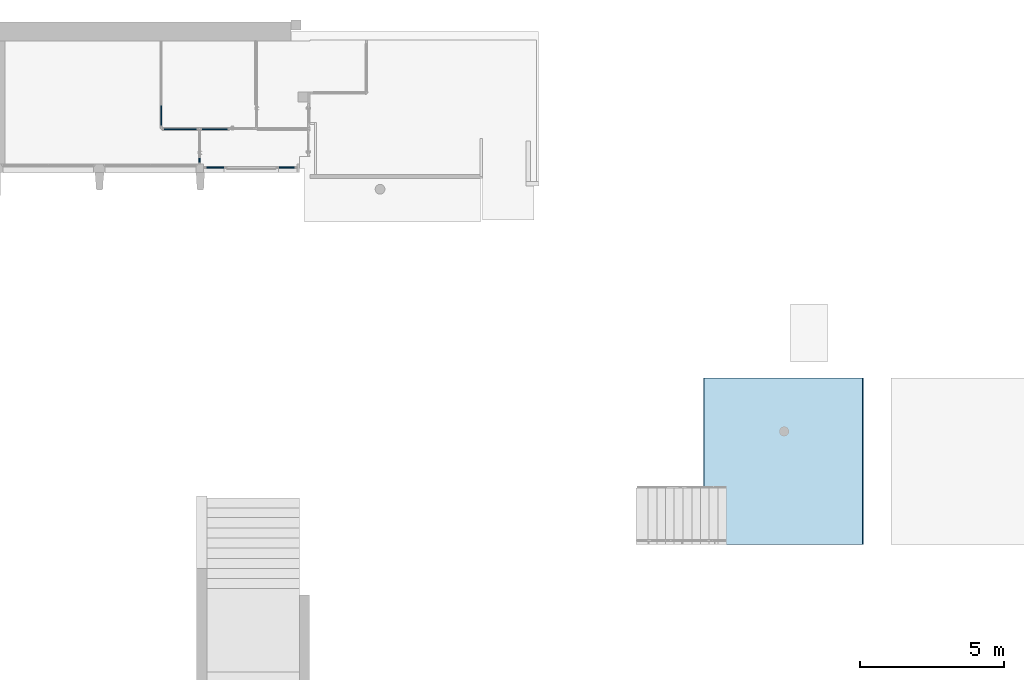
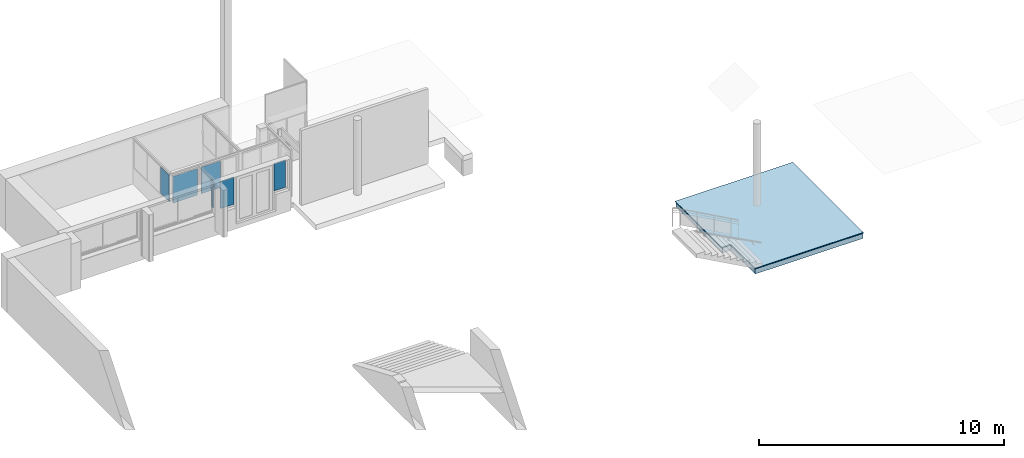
# One storey, part 4 of 19: 6 plates, 2 slabs, 5 elements without a shape of their own.
"""IFC4 building model written with IfcOpenShell, lengths in metres."""

from ifc_helpers import new_model, entity, si_unit, converted_unit, derived_unit, direction, frame, origin, place, context, subcontext, project, spatial, indexed_curve, outline, extrude, shape, source, transform, mapped, material, layer, layer_set, type_object, type_shapes, element, aggregate, save


model = new_model("IFC4")

# Units and contexts
model_context = context("Model", 3, precision=1e-05, world=origin(), true_north=direction((6.12303176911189e-17, 1.0)))
body_context = subcontext(model_context, "Body", "Model", "MODEL_VIEW")
footprint_context = subcontext(model_context, "FootPrint", "Model", "MODEL_VIEW")
ifc_project = project(units=[si_unit("LENGTHUNIT", "METRE"), si_unit("AREAUNIT", "SQUARE_METRE"), si_unit("VOLUMEUNIT", "CUBIC_METRE"), converted_unit("PLANEANGLEUNIT", "DEGREE", entity("IfcRatioMeasure", 0.0174532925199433), si_unit("PLANEANGLEUNIT", "RADIAN"), dimensions=[0, 0, 0, 0, 0, 0, 0]), si_unit("MASSUNIT", "GRAM", prefix="KILO"), derived_unit("MASSDENSITYUNIT", [(si_unit("MASSUNIT", "GRAM", prefix="KILO"), 1), (si_unit("LENGTHUNIT", "METRE"), -3)]), derived_unit("MOMENTOFINERTIAUNIT", [(si_unit("LENGTHUNIT", "METRE"), 4)]), si_unit("TIMEUNIT", "SECOND"), si_unit("FREQUENCYUNIT", "HERTZ"), si_unit("THERMODYNAMICTEMPERATUREUNIT", "DEGREE_CELSIUS"), derived_unit("THERMALTRANSMITTANCEUNIT", [(si_unit("MASSUNIT", "GRAM", prefix="KILO"), 1), (si_unit("THERMODYNAMICTEMPERATUREUNIT", "KELVIN"), -1), (si_unit("TIMEUNIT", "SECOND"), -3)]), derived_unit("VOLUMETRICFLOWRATEUNIT", [(si_unit("LENGTHUNIT", "METRE"), 3), (si_unit("TIMEUNIT", "SECOND"), -1)]), si_unit("ELECTRICCURRENTUNIT", "AMPERE"), si_unit("ELECTRICVOLTAGEUNIT", "VOLT"), si_unit("POWERUNIT", "WATT"), si_unit("FORCEUNIT", "NEWTON", prefix="KILO"), si_unit("ILLUMINANCEUNIT", "LUX"), si_unit("LUMINOUSFLUXUNIT", "LUMEN"), si_unit("LUMINOUSINTENSITYUNIT", "CANDELA"), derived_unit("USERDEFINED", [(si_unit("MASSUNIT", "GRAM", prefix="KILO"), -1), (si_unit("LENGTHUNIT", "METRE"), -2), (si_unit("TIMEUNIT", "SECOND"), 3), (si_unit("LUMINOUSFLUXUNIT", "LUMEN"), 1)]), derived_unit("LINEARVELOCITYUNIT", [(si_unit("LENGTHUNIT", "METRE"), 1), (si_unit("TIMEUNIT", "SECOND"), -1)]), si_unit("PRESSUREUNIT", "PASCAL"), derived_unit("USERDEFINED", [(si_unit("LENGTHUNIT", "METRE"), -2), (si_unit("MASSUNIT", "GRAM", prefix="KILO"), 1), (si_unit("TIMEUNIT", "SECOND"), -2)]), derived_unit("LINEARFORCEUNIT", [(si_unit("MASSUNIT", "GRAM", prefix="KILO"), 1), (si_unit("LENGTHUNIT", "METRE"), 1), (si_unit("TIMEUNIT", "SECOND"), -2), (si_unit("LENGTHUNIT", "METRE"), -1)]), derived_unit("PLANARFORCEUNIT", [(si_unit("MASSUNIT", "GRAM", prefix="KILO"), 1), (si_unit("LENGTHUNIT", "METRE"), 1), (si_unit("TIMEUNIT", "SECOND"), -2), (si_unit("LENGTHUNIT", "METRE"), -2)])], contexts=[model_context])

# Site, building, storey
site_placement = place(None, origin())
site = spatial("IfcSite", under=ifc_project, at=site_placement, Name="Default", CompositionType="ELEMENT")
building_placement = place(site_placement, origin())
building = spatial("IfcBuilding", under=site, at=building_placement, Name="HOTEL CONSULAIRE BOULOGNE SUR MER", CompositionType="ELEMENT")
storey_placement = place(building_placement, frame((0.0, 0.0, -4.01003075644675)))
storey = spatial("IfcBuildingStorey", under=building, at=storey_placement, Name="SS2", CompositionType="ELEMENT", Elevation=-4.01003075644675)

# Curtain wall, plates
curtain_wall_type = type_object("IfcCurtainWallType", Name="Mur-rideau:Simple panneau", PredefinedType="NOTDEFINED")
curtain_wall_1_placement = place(storey_placement, frame((0.0, 0.0, 4.01003075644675)))
curtain_wall_1 = element("IfcCurtainWall", 1, at=curtain_wall_1_placement, inside=storey, type_object=curtain_wall_type, Name="Mur-rideau:Simple panneau", ObjectType="Mur-rideau:Simple panneau", PredefinedType="NOTDEFINED")
ifc_material_1 = material(Name="Verre", Category="Verre")
ifc_layer_1 = layer(ifc_material_1, 0.04, Name="Verre", Category="Verre")
ifc_layer_set_1 = layer_set([ifc_layer_1], Name="Mur-rideau:Simple panneau")
plate_type_1 = type_object("IfcPlateType", Name="Panneau système:Vitré", PredefinedType="CURTAIN_PANEL", material=ifc_layer_set_1)
shared_shape_1 = source(origin(), body_context, "Body", "SweptSolid", [
    extrude(outline(indexed_curve([(-0.02, -0.310217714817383), (0.02, -0.310217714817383), (0.02, 0.310217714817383), (-0.02, 0.310217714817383), (-0.02, -0.310217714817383)], self_intersect=False)), frame((0.310217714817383, 0.02, 0.0), z_axis=(0.0, 0.0, 1.0), x_axis=(0.0, 1.0, 0.0)), (0.0, 0.0, 1.0), 1.35356778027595),
])
shared_shape_2 = source(frame((-0.310217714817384, 0.00500000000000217, 0.0)), footprint_context, "FootPrint", "Curve2D", [
    entity("IfcIndexedPolyCurve", entity("IfcCartesianPointList2D", [[0.404772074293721, 0.00347600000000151], [0.404772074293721, 0.0434760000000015], [-0.215663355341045, 0.0434760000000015], [-0.215663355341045, 0.00347600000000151], [0.404772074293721, 0.00347600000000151]]), None, False),
])
type_shapes(plate_type_1, [shared_shape_1, shared_shape_2])
plate_1_placement = place(curtain_wall_1_placement, frame((-17.0747787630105, -14.8825756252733, -3.12359853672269)))
plate_1 = element("IfcPlate", 2, at=plate_1_placement, type_object=plate_type_1, material=ifc_layer_set_1, Name="Panneau système:Vitré", ObjectType="Panneau système:Vitré", PredefinedType="CURTAIN_PANEL", shapes=[
    shape(body_context, "Body", "MappedRepresentation", [mapped(shared_shape_1, transform((0.0, 0.0, 0.0), scale=1.0))]),
    shape(body_context, "Body", "MappedRepresentation", [mapped(shared_shape_2, transform((0.0, 0.0, 0.0), scale=1.0))]),
])
plate_type_2 = type_object("IfcPlateType", Name="Panneau système:Vitré", PredefinedType="CURTAIN_PANEL", material=ifc_layer_set_1)
shared_shape_3 = source(origin(), body_context, "Body", "SweptSolid", [
    extrude(outline(indexed_curve([(-0.0200000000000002, -0.277785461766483), (0.0199999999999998, -0.277785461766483), (0.0200000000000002, 0.277785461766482), (-0.0199999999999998, 0.277785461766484), (-0.0200000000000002, -0.277785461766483)], self_intersect=False)), frame((0.277785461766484, 0.02, 0.0), z_axis=(0.0, 0.0, 1.0), x_axis=(0.0, 1.0, 0.0)), (0.0, 0.0, 1.0), 1.35356778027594),
])
shared_shape_4 = source(frame((-0.277785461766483, 0.00500000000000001, 0.0)), footprint_context, "FootPrint", "Curve2D", [
    entity("IfcIndexedPolyCurve", entity("IfcCartesianPointList2D", [[0.362454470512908, 0.003476], [0.362454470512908, 0.043476], [-0.193116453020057, 0.043476], [-0.193116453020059, 0.003476], [0.362454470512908, 0.003476]]), None, False),
])
type_shapes(plate_type_2, [shared_shape_3, shared_shape_4])
plate_2_placement = place(curtain_wall_1_placement, frame((-14.5643496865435, -14.8825756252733, -3.12359853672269)))
plate_2 = element("IfcPlate", 3, at=plate_2_placement, type_object=plate_type_2, material=ifc_layer_set_1, Name="Panneau système:Vitré", ObjectType="Panneau système:Vitré", PredefinedType="CURTAIN_PANEL", shapes=[
    shape(body_context, "Body", "MappedRepresentation", [mapped(shared_shape_3, transform((0.0, 0.0, 0.0), scale=1.0))]),
    shape(body_context, "Body", "MappedRepresentation", [mapped(shared_shape_4, transform((0.0, 0.0, 0.0), scale=1.0))]),
])
aggregate(curtain_wall_1, [plate_1, plate_2])

# Curtain wall, plate
curtain_wall_2_placement = place(storey_placement, frame((0.0, 0.0, 4.01003075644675)))
curtain_wall_2 = element("IfcCurtainWall", 4, at=curtain_wall_2_placement, inside=storey, type_object=curtain_wall_type, Name="Mur-rideau:Simple panneau", ObjectType="Mur-rideau:Simple panneau", PredefinedType="NOTDEFINED")
plate_type_3 = type_object("IfcPlateType", Name="Panneau système:Vitré", PredefinedType="CURTAIN_PANEL", material=ifc_layer_set_1)
shared_shape_5 = source(origin(), body_context, "Body", "SweptSolid", [
    extrude(outline(indexed_curve([(-0.02, -0.0860000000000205), (0.02, -0.0860000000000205), (0.02, 0.0860000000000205), (-0.02, 0.0860000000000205), (-0.02, -0.0860000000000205)], self_intersect=False)), frame((0.0860000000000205, 0.02, 0.0), z_axis=(0.0, 0.0, 1.0), x_axis=(0.0, 1.0, 0.0)), (0.0, 0.0, 1.0), 1.32926671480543),
])
shared_shape_6 = source(frame((-0.0860000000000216, 0.00500000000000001, 0.0)), footprint_context, "FootPrint", "Curve2D", [
    entity("IfcIndexedPolyCurve", entity("IfcCartesianPointList2D", [[0.112212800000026, 0.003476], [0.112212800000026, 0.043476], [-0.059787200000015, 0.043476], [-0.059787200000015, 0.003476], [0.112212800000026, 0.003476]]), None, False),
])
type_shapes(plate_type_3, [shared_shape_5, shared_shape_6])
plate_3_placement = place(curtain_wall_2_placement, frame((-17.2874892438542, -14.6875756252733, -3.13576483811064), z_axis=(0.0, 0.0, 1.0), x_axis=(0.0, 1.0, 0.0)))
plate_3 = element("IfcPlate", 5, at=plate_3_placement, type_object=plate_type_3, material=ifc_layer_set_1, Name="Panneau système:Vitré", ObjectType="Panneau système:Vitré", PredefinedType="CURTAIN_PANEL", shapes=[
    shape(body_context, "Body", "MappedRepresentation", [mapped(shared_shape_5, transform((0.0, 0.0, 0.0), scale=1.0))]),
    shape(body_context, "Body", "MappedRepresentation", [mapped(shared_shape_6, transform((0.0, 0.0, 0.0), scale=1.0))]),
])
aggregate(curtain_wall_2, [plate_3])

curtain_wall_3_placement = place(storey_placement, frame((0.0, 0.0, 4.01003075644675)))
curtain_wall_3 = element("IfcCurtainWall", 6, at=curtain_wall_3_placement, inside=storey, type_object=curtain_wall_type, Name="Mur-rideau:Simple panneau", ObjectType="Mur-rideau:Simple panneau", PredefinedType="NOTDEFINED")
plate_type_4 = type_object("IfcPlateType", Name="Panneau système:Vitré", PredefinedType="CURTAIN_PANEL", material=ifc_layer_set_1)
shared_shape_7 = source(origin(), body_context, "Body", "SweptSolid", [
    extrude(outline(indexed_curve([(-0.02, -0.349), (0.02, -0.349), (0.02, 0.349), (-0.02, 0.349), (-0.02, -0.349)], self_intersect=False)), frame((0.349, 0.02, 0.0), z_axis=(0.0, 0.0, 1.0), x_axis=(0.0, 1.0, 0.0)), (0.0, 0.0, 1.0), 1.32926671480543),
])
shared_shape_8 = source(frame((-0.348999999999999, 0.00499999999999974, 0.0)), footprint_context, "FootPrint", "Curve2D", [
    entity("IfcIndexedPolyCurve", entity("IfcCartesianPointList2D", [[0.4553752, 0.00347599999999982], [0.4553752, 0.0434759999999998], [-0.242624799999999, 0.0434759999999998], [-0.242624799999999, 0.00347599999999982], [0.4553752, 0.00347599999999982]]), None, False),
])
type_shapes(plate_type_4, [shared_shape_7, shared_shape_8])
plate_4_placement = place(curtain_wall_3_placement, frame((-18.6187787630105, -13.40532416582, -3.13576483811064), z_axis=(0.0, 0.0, 1.0), x_axis=(0.0, 1.0, 0.0)))
plate_4 = element("IfcPlate", 7, at=plate_4_placement, type_object=plate_type_4, material=ifc_layer_set_1, Name="Panneau système:Vitré", ObjectType="Panneau système:Vitré", PredefinedType="CURTAIN_PANEL", shapes=[
    shape(body_context, "Body", "MappedRepresentation", [mapped(shared_shape_7, transform((0.0, 0.0, 0.0), scale=1.0))]),
    shape(body_context, "Body", "MappedRepresentation", [mapped(shared_shape_8, transform((0.0, 0.0, 0.0), scale=1.0))]),
])
aggregate(curtain_wall_3, [plate_4])

curtain_wall_4_placement = place(storey_placement, frame((0.0, 0.0, 4.01003075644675)))
curtain_wall_4 = element("IfcCurtainWall", 8, at=curtain_wall_4_placement, inside=storey, type_object=curtain_wall_type, Name="Mur-rideau:Simple panneau", ObjectType="Mur-rideau:Simple panneau", PredefinedType="NOTDEFINED")
plate_type_5 = type_object("IfcPlateType", Name="Panneau système:Vitré", PredefinedType="CURTAIN_PANEL", material=ifc_layer_set_1)
shared_shape_9 = source(origin(), body_context, "Body", "SweptSolid", [
    extrude(outline(indexed_curve([(-0.02, -0.578500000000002), (0.02, -0.578500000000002), (0.02, 0.578500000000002), (-0.02, 0.578500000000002), (-0.02, -0.578500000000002)], self_intersect=False)), frame((0.578500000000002, 0.02, 0.0), z_axis=(0.0, 0.0, 1.0), x_axis=(0.0, 1.0, 0.0)), (0.0, 0.0, 1.0), 1.32926671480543),
])
shared_shape_10 = source(frame((-0.578500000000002, 0.00500000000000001, 0.0)), footprint_context, "FootPrint", "Curve2D", [
    entity("IfcIndexedPolyCurve", entity("IfcCartesianPointList2D", [[0.754826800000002, 0.003476], [0.754826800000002, 0.043476], [-0.402173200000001, 0.043476], [-0.402173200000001, 0.003476], [0.754826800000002, 0.003476]]), None, False),
])
type_shapes(plate_type_5, [shared_shape_9, shared_shape_10])
plate_5_placement = place(curtain_wall_4_placement, frame((-17.3967787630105, -13.51932416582, -3.13576483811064), z_axis=(0.0, 0.0, 1.0), x_axis=(-1.0, 0.0, 0.0)))
plate_5 = element("IfcPlate", 9, at=plate_5_placement, type_object=plate_type_5, material=ifc_layer_set_1, Name="Panneau système:Vitré", ObjectType="Panneau système:Vitré", PredefinedType="CURTAIN_PANEL", shapes=[
    shape(body_context, "Body", "MappedRepresentation", [mapped(shared_shape_9, transform((0.0, 0.0, 0.0), scale=1.0))]),
    shape(body_context, "Body", "MappedRepresentation", [mapped(shared_shape_10, transform((0.0, 0.0, 0.0), scale=1.0))]),
])
aggregate(curtain_wall_4, [plate_5])

curtain_wall_5_placement = place(storey_placement, frame((0.0, 0.0, 4.01003075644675)))
curtain_wall_5 = element("IfcCurtainWall", 10, at=curtain_wall_5_placement, inside=storey, type_object=curtain_wall_type, Name="Mur-rideau:Simple panneau", ObjectType="Mur-rideau:Simple panneau", PredefinedType="NOTDEFINED")
plate_type_6 = type_object("IfcPlateType", Name="Panneau système:Vitré", PredefinedType="CURTAIN_PANEL", material=ifc_layer_set_1)
shared_shape_11 = source(origin(), body_context, "Body", "SweptSolid", [
    extrude(outline(indexed_curve([(-0.02, -0.452792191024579), (0.02, -0.452792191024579), (0.02, 0.452792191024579), (-0.02, 0.452792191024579), (-0.02, -0.452792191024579)], self_intersect=False)), frame((0.452792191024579, 0.02, 0.0), z_axis=(0.0, 0.0, 1.0), x_axis=(0.0, 1.0, 0.0)), (0.0, 0.0, 1.0), 1.32926671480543),
])
shared_shape_12 = source(frame((-0.45279219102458, 0.00499999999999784, 0.0)), footprint_context, "FootPrint", "Curve2D", [
    entity("IfcIndexedPolyCurve", entity("IfcCartesianPointList2D", [[0.590803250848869, 0.0034759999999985], [0.590803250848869, 0.0434759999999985], [-0.314781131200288, 0.0434759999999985], [-0.314781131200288, 0.0034759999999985], [0.590803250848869, 0.0034759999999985]]), None, False),
])
type_shapes(plate_type_6, [shared_shape_11, shared_shape_12])
plate_6_placement = place(curtain_wall_5_placement, frame((-16.3211943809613, -13.51932416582, -3.13576483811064), z_axis=(0.0, 0.0, 1.0), x_axis=(-1.0, 0.0, 0.0)))
plate_6 = element("IfcPlate", 11, at=plate_6_placement, type_object=plate_type_6, material=ifc_layer_set_1, Name="Panneau système:Vitré", ObjectType="Panneau système:Vitré", PredefinedType="CURTAIN_PANEL", shapes=[
    shape(body_context, "Body", "MappedRepresentation", [mapped(shared_shape_11, transform((0.0, 0.0, 0.0), scale=1.0))]),
    shape(body_context, "Body", "MappedRepresentation", [mapped(shared_shape_12, transform((0.0, 0.0, 0.0), scale=1.0))]),
])
aggregate(curtain_wall_5, [plate_6])

# Slabs
ifc_material_2 = material(Name="Béton - Béton coulé sur place", Category="Béton")
ifc_layer_2 = layer(ifc_material_2, 0.25, Name="Béton - Béton coulé sur place", Category="Béton")
ifc_layer_set_2 = layer_set([ifc_layer_2], Name="Sol:Dalle en béton -250")
slab_type_1 = type_object("IfcSlabType", Name="Sol:Dalle en béton -250", PredefinedType="FLOOR", material=ifc_layer_set_2)
slab_1_placement = place(storey_placement, origin())
element("IfcSlab", 12, at=slab_1_placement, inside=storey, type_object=slab_type_1, material=ifc_layer_set_2, Name="Sol:Dalle en béton -250", ObjectType="Sol:Dalle en béton -250", PredefinedType="FLOOR", context=body_context, shape_type="SweptSolid", body=[
    extrude(outline(indexed_curve([(-0.608673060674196, -1.96815173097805), (3.19286390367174, -1.96815173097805), (3.19286390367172, 3.52430346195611), (-2.58419084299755, 3.52430346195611), (-2.58419084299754, -1.55615173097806), (-0.608673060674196, -1.55615173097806), (-0.608673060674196, -1.96815173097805)], self_intersect=False)), frame((2.16687331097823, -25.3620829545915, -0.4), z_axis=(0.0, 0.0, -1.0), x_axis=(0.0, 1.0, 0.0)), (0.0, 0.0, 1.0), 0.25),
])
ifc_material_3 = material(Name="carrelage 30x30")
ifc_layer_3 = layer(ifc_material_3, 0.04, Name="carrelage 30x30")
ifc_layer_set_3 = layer_set([ifc_layer_3], Name="Sol:carrelage 30x30")
slab_type_2 = type_object("IfcSlabType", Name="Sol:carrelage 30x30", PredefinedType="FLOOR", material=ifc_layer_set_3)
slab_2_placement = place(storey_placement, origin())
element("IfcSlab", 13, at=slab_2_placement, inside=storey, type_object=slab_type_2, material=ifc_layer_set_3, Name="Sol:carrelage 30x30", ObjectType="Sol:carrelage 30x30", PredefinedType="FLOOR", context=body_context, shape_type="SweptSolid", body=[
    extrude(outline(indexed_curve([(-0.608673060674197, -1.99815173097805), (3.19286390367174, -1.99815173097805), (3.19286390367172, 3.55430346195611), (-2.58419084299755, 3.55430346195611), (-2.58419084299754, -1.55615173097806), (-0.608673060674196, -1.55615173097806), (-0.608673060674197, -1.99815173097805)], self_intersect=False)), frame((2.16687331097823, -25.3620829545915, -0.36), z_axis=(0.0, 0.0, -1.0), x_axis=(0.0, 1.0, 0.0)), (0.0, 0.0, 1.0), 0.0400000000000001),
])

save(model, "model.ifc")
